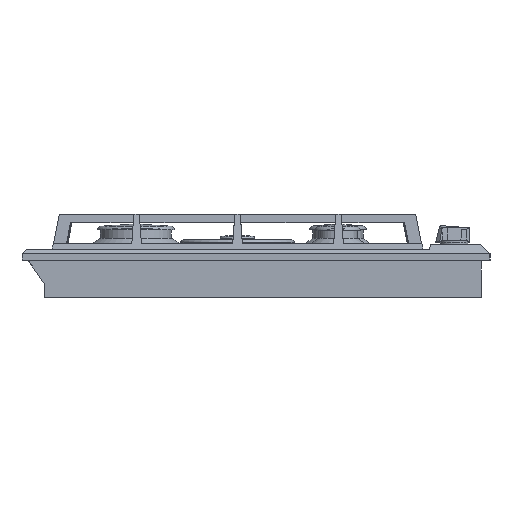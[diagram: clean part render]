
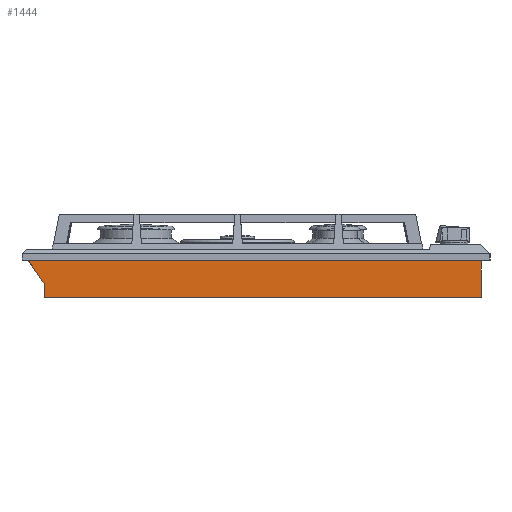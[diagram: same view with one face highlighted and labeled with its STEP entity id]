
A CAD part, left-side view. The second image highlights one B-rep face of the part: STEP entity #1444.
In plain terms, the highlighted planar face has unit normal (-1, 0, 0).
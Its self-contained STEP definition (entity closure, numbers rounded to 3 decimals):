
#1444=ADVANCED_FACE('',(#2326),#1893,.T.);
#1893=PLANE('',#10803);
#2326=FACE_OUTER_BOUND('',#2947,.T.);
#2947=EDGE_LOOP('',(#4804,#4805,#4806,#4807,#4808));
#4804=ORIENTED_EDGE('',*,*,#7727,.F.);
#4805=ORIENTED_EDGE('',*,*,#7724,.F.);
#4806=ORIENTED_EDGE('',*,*,#7728,.T.);
#4807=ORIENTED_EDGE('',*,*,#7688,.T.);
#4808=ORIENTED_EDGE('',*,*,#7729,.T.);
#6513=VERTEX_POINT('',#17168);
#6514=VERTEX_POINT('',#17169);
#6540=VERTEX_POINT('',#17240);
#6541=VERTEX_POINT('',#17242);
#6543=VERTEX_POINT('',#17248);
#7688=EDGE_CURVE('',#6513,#6514,#9046,.T.);
#7724=EDGE_CURVE('',#6540,#6541,#9074,.T.);
#7727=EDGE_CURVE('',#6541,#6543,#9077,.T.);
#7728=EDGE_CURVE('',#6540,#6513,#9078,.T.);
#7729=EDGE_CURVE('',#6514,#6543,#9079,.T.);
#9046=LINE('',#17167,#9847);
#9074=LINE('',#17241,#9875);
#9077=LINE('',#17247,#9878);
#9078=LINE('',#17249,#9879);
#9079=LINE('',#17250,#9880);
#9847=VECTOR('',#12562,1.);
#9875=VECTOR('',#12626,1.);
#9878=VECTOR('',#12631,1.);
#9879=VECTOR('',#12632,1.);
#9880=VECTOR('',#12633,1.);
#10803=AXIS2_PLACEMENT_3D('',#17251,#12634,#12635);
#12562=DIRECTION('',(0.,0.,-1.));
#12626=DIRECTION('',(0.,-1.,0.));
#12631=DIRECTION('',(0.,0.,-1.));
#12632=DIRECTION('',(0.,-0.562,-0.827));
#12633=DIRECTION('',(0.,-1.,0.));
#12634=DIRECTION('',(-1.,0.,0.));
#12635=DIRECTION('',(0.,0.,1.));
#17167=CARTESIAN_POINT('',(-638.65,485.9,-5.869));
#17168=CARTESIAN_POINT('',(-638.65,485.9,-30.869));
#17169=CARTESIAN_POINT('',(-638.65,485.9,-46.169));
#17240=CARTESIAN_POINT('',(-638.65,502.9,-5.869));
#17241=CARTESIAN_POINT('',(-638.65,485.9,-5.869));
#17242=CARTESIAN_POINT('',(-638.65,9.6,-5.869));
#17247=CARTESIAN_POINT('',(-638.65,9.6,-5.869));
#17248=CARTESIAN_POINT('',(-638.65,9.6,-46.169));
#17249=CARTESIAN_POINT('',(-638.65,502.9,-5.869));
#17250=CARTESIAN_POINT('',(-638.65,485.9,-46.169));
#17251=CARTESIAN_POINT('',(-638.65,485.9,-5.869));
